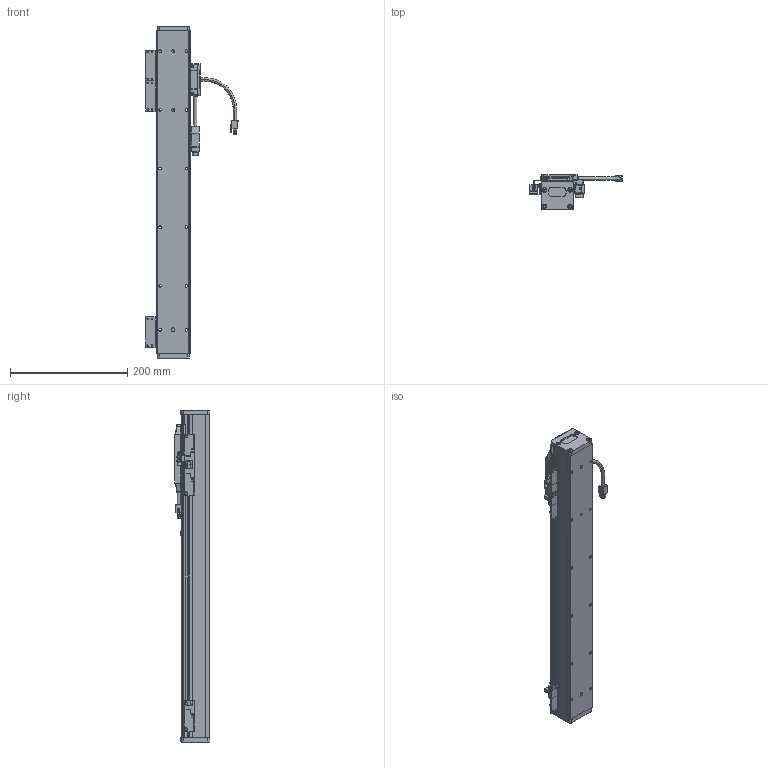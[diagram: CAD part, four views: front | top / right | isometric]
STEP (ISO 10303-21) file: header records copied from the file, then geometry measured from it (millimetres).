
FILE_DESCRIPTION(('Open CASCADE Model'),'2;1');
FILE_NAME('Open CASCADE Shape Model','2025-11-05T07:17:51',('Author'),( 'Open CASCADE'),'Open CASCADE STEP processor 7.6','Open CASCADE 7.6' ,'Unknown');
FILE_SCHEMA(('AUTOMOTIVE_DESIGN { 1 0 10303 214 1 1 1 1 }'));
Length unit declared in the file: millimetre
Products named in the file (25): Open CASCADE STEP translator 7.6 26; Open CASCADE STEP translator 7.6 26.1; Open CASCADE STEP translator 7.6 26.2; Open CASCADE STEP translator 7.6 26.3; Open CASCADE STEP translator 7.6 26.4; Open CASCADE STEP translator 7.6 26.5; Open CASCADE STEP translator 7.6 26.6; Open CASCADE STEP translator 7.6 26.7; Open CASCADE STEP translator 7.6 26.8; Open CASCADE STEP translator 7.6 26.9; Open CASCADE STEP translator 7.6 26.10; Open CASCADE STEP translator 7.6 26.11; Open CASCADE STEP translator 7.6 26.12; Open CASCADE STEP translator 7.6 26.13; Open CASCADE STEP translator 7.6 26.14; Open CASCADE STEP translator 7.6 26.14.1; Open CASCADE STEP translator 7.6 26.14.1.1; Open CASCADE STEP translator 7.6 26.14.1.2; Open CASCADE STEP translator 7.6 26.14.1.3; Open CASCADE STEP translator 7.6 26.14.1.4; Open CASCADE STEP translator 7.6 26.14.1.5; Open CASCADE STEP translator 7.6 26.15; Open CASCADE STEP translator 7.6 26.16; Open CASCADE STEP translator 7.6 26.17; Open CASCADE STEP translator 7.6 26.18
Assembly tree (24 placements, depth 4):
  Open CASCADE STEP translator 7.6 26
    Open CASCADE STEP translator 7.6 26.1
    Open CASCADE STEP translator 7.6 26.2
    Open CASCADE STEP translator 7.6 26.3
    Open CASCADE STEP translator 7.6 26.4
    Open CASCADE STEP translator 7.6 26.5
    Open CASCADE STEP translator 7.6 26.6
    Open CASCADE STEP translator 7.6 26.7
    Open CASCADE STEP translator 7.6 26.8
    Open CASCADE STEP translator 7.6 26.9
    Open CASCADE STEP translator 7.6 26.10
    Open CASCADE STEP translator 7.6 26.11
    Open CASCADE STEP translator 7.6 26.12
    Open CASCADE STEP translator 7.6 26.13
    Open CASCADE STEP translator 7.6 26.14
      Open CASCADE STEP translator 7.6 26.14.1
        Open CASCADE STEP translator 7.6 26.14.1.1
        Open CASCADE STEP translator 7.6 26.14.1.2
        Open CASCADE STEP translator 7.6 26.14.1.3
        Open CASCADE STEP translator 7.6 26.14.1.4
        Open CASCADE STEP translator 7.6 26.14.1.5
    Open CASCADE STEP translator 7.6 26.15
    Open CASCADE STEP translator 7.6 26.16
    Open CASCADE STEP translator 7.6 26.17
    Open CASCADE STEP translator 7.6 26.18
Bounding box: 158 x 60 x 566 mm (x, y, z)
Volume: 1555183 mm3; surface area: 230455.6 mm2
Topology: 22 solids, 23 shells, 1869 faces, 4665 edges, 2952 vertices
Faces by surface type: plane 977, cylinder 680, bspline 112, cone 84, torus 16
Entity records: 143206 total; most frequent: CARTESIAN_POINT 51571, DIRECTION 16758, LINE 10319, VECTOR 10319, ORIENTED_EDGE 9196, PCURVE 9196, DEFINITIONAL_REPRESENTATION 9196, EDGE_CURVE 4598
